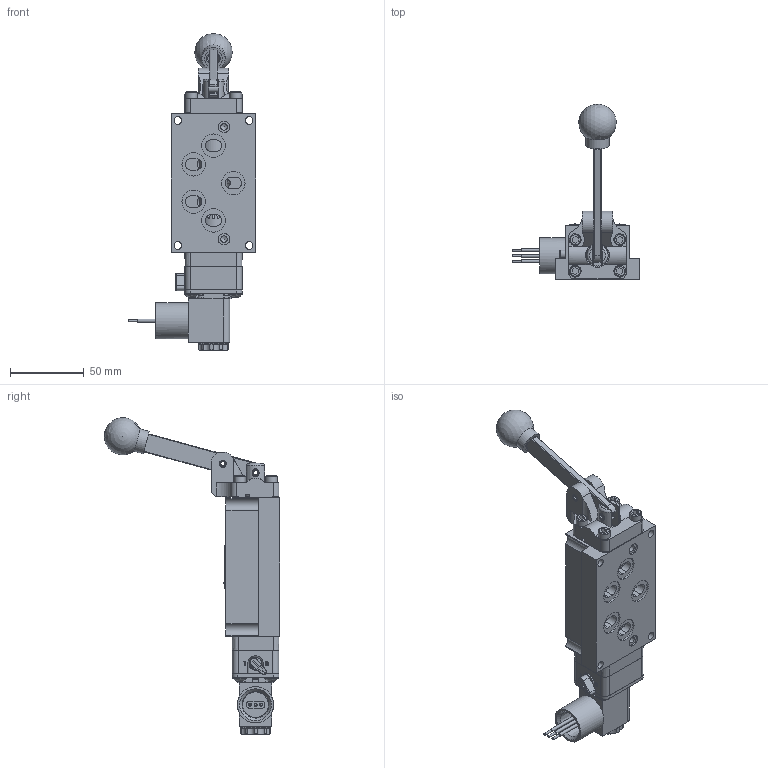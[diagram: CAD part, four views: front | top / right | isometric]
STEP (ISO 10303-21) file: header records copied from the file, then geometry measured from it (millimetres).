
FILE_DESCRIPTION(/* description */ (''),/* implementation_level */ '2;1');
FILE_NAME(/* name */ 'D:\Engineering\Product\valves\Assembly\Standard\ESAH\stp\ESAH3PJO.stp',/* time_stamp */ '2021-04-13T15:59:52-04:00',/* author */ ('RMcKenna'),/* organization */ (''),/* preprocessor_version */ 'ST-DEVELOPER v18.1',/* originating_system */ 'Autodesk Inventor 2021',/* authorisation */ '');
FILE_SCHEMA (('AUTOMOTIVE_DESIGN { 1 0 10303 214 3 1 1 }'));
Products named in the file (1): Part31
Bounding box: 86.37 x 119.04 x 215.03 mm (x, y, z)
Volume: 231095.7 mm3; surface area: 85829.3 mm2
Topology: 1 solids, 30 shells, 1666 faces, 4074 edges, 2592 vertices
Faces by surface type: plane 699, cylinder 483, cone 275, torus 157, bspline 45, sphere 7
Full cylindrical faces by diameter (mm): 1.3 x1, 1.397 x1, 1.5 x2, 1.524 x3, 2.032 x7, 2.07 x2, 2.261 x2, 2.35 x4, 2.5 x1, 2.778 x2, 2.8 x1, 3 x4, 3.048 x2, 3.175 x1, 3.4 x1, 3.683 x10, 3.861 x2, 3.988 x1, 4.191 x2, 4.305 x1, 4.366 x2, 4.369 x3, 4.75 x2, 4.763 x2, 4.826 x8, 4.978 x4, 5.055 x1, 5.15 x4, 5.156 x8, 5.159 x4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
Entity records: 54195 total; most frequent: CARTESIAN_POINT 12798, DIRECTION 8522, ORIENTED_EDGE 8108, EDGE_CURVE 4054, AXIS2_PLACEMENT_3D 3299, VERTEX_POINT 2592, LINE 1924, VECTOR 1924
